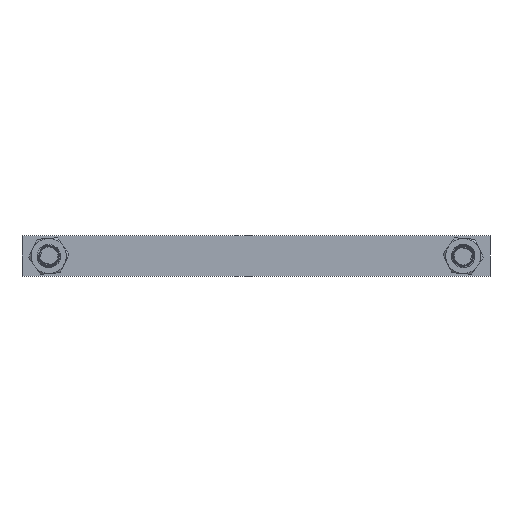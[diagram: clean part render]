
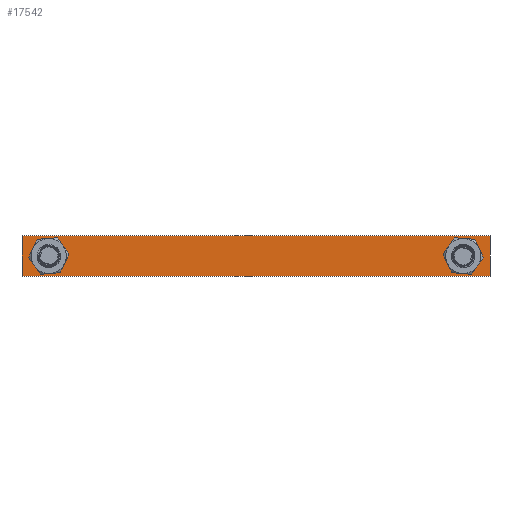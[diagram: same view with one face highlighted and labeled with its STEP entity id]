
A CAD part, front view. The second image highlights one B-rep face of the part: STEP entity #17542.
In plain terms, the highlighted planar face has unit normal (0, -1, 0).
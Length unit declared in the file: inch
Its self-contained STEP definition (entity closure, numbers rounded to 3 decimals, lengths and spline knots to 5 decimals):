
#264 = ORIENTED_EDGE ( 'NONE', *, *, #9180, .T. ) ;
#321 = CIRCLE ( 'NONE', #8082, 0.5 ) ;
#489 = FACE_BOUND ( 'NONE', #8666, .T. ) ;
#581 = DIRECTION ( 'NONE',  ( 0., -1., 0. ) ) ;
#923 = CARTESIAN_POINT ( 'NONE',  ( 0., 0.05, 0. ) ) ;
#971 = AXIS2_PLACEMENT_3D ( 'NONE', #6423, #5029, #3654 ) ;
#1768 = EDGE_CURVE ( 'Edge10', #17876, #14242, #6843, .T. ) ;
#2429 = ORIENTED_EDGE ( 'NONE', *, *, #9243, .T. ) ;
#2511 = CIRCLE ( 'NONE', #16772, 0.5 ) ;
#2809 = CARTESIAN_POINT ( 'NONE',  ( 16.5, 0.05, 0. ) ) ;
#3196 = CARTESIAN_POINT ( 'NONE',  ( 16.5, 0.05, -0.5 ) ) ;
#3387 = DIRECTION ( 'NONE',  ( 0., 0., -1. ) ) ;
#3514 = DIRECTION ( 'NONE',  ( 0., 0., -1. ) ) ;
#3654 = DIRECTION ( 'NONE',  ( 0., 0., 1. ) ) ;
#4959 = PLANE ( 'NONE',  #9668 ) ;
#5029 = DIRECTION ( 'NONE',  ( 0., 1., 0. ) ) ;
#5141 = AXIS2_PLACEMENT_3D ( 'NONE', #2809, #7068, #15915 ) ;
#5467 = VERTEX_POINT ( 'NONE', #3196 ) ;
#5666 = ORIENTED_EDGE ( 'NONE', *, *, #14813, .T. ) ;
#6061 = FACE_OUTER_BOUND ( 'NONE', #6594, .T. ) ;
#6423 = CARTESIAN_POINT ( 'NONE',  ( 16.5, 0.05, 0. ) ) ;
#6594 = EDGE_LOOP ( 'NONE', ( #2429, #16888, #16376, #8262 ) ) ;
#6619 = CIRCLE ( 'NONE', #971, 0.5 ) ;
#6634 = VECTOR ( 'NONE', #13934, 39.37008 ) ;
#6843 = LINE ( 'NONE', #11046, #6634 ) ;
#7068 = DIRECTION ( 'NONE',  ( 0., 1., 0. ) ) ;
#7879 = DIRECTION ( 'NONE',  ( 1., 0., 0. ) ) ;
#7911 = VERTEX_POINT ( 'NONE', #8202 ) ;
#8005 = CARTESIAN_POINT ( 'NONE',  ( 1., 0.05, 0. ) ) ;
#8082 = AXIS2_PLACEMENT_3D ( 'NONE', #11788, #15981, #3514 ) ;
#8202 = CARTESIAN_POINT ( 'NONE',  ( 1., 0.05, 0.5 ) ) ;
#8262 = ORIENTED_EDGE ( 'NONE', *, *, #1768, .F. ) ;
#8348 = ORIENTED_EDGE ( 'NONE', *, *, #18380, .T. ) ;
#8578 = EDGE_CURVE ( 'Edge7', #5467, #12927, #11106, .T. ) ;
#8666 = EDGE_LOOP ( 'NONE', ( #17035, #264 ) ) ;
#8909 = CARTESIAN_POINT ( 'NONE',  ( 17.5, 0.05, 0.74833 ) ) ;
#9020 = EDGE_CURVE ( 'Edge6', #10779, #14440, #13689, .T. ) ;
#9062 = FACE_BOUND ( 'NONE', #9776, .T. ) ;
#9180 = EDGE_CURVE ( 'Edge7', #12927, #5467, #6619, .T. ) ;
#9243 = EDGE_CURVE ( 'NONE', #17876, #10779, #13191, .T. ) ;
#9668 = AXIS2_PLACEMENT_3D ( 'NONE', #16041, #581, #3387 ) ;
#9776 = EDGE_LOOP ( 'NONE', ( #5666, #8348 ) ) ;
#9898 = VECTOR ( 'NONE', #12206, 39.37008 ) ;
#10779 = VERTEX_POINT ( 'NONE', #11100 ) ;
#11046 = CARTESIAN_POINT ( 'NONE',  ( 17.5, 0.05, 0.875 ) ) ;
#11100 = CARTESIAN_POINT ( 'NONE',  ( 0., 0.05, 0.74833 ) ) ;
#11106 = CIRCLE ( 'NONE', #5141, 0.5 ) ;
#11788 = CARTESIAN_POINT ( 'NONE',  ( 1., 0.05, 0. ) ) ;
#11881 = DIRECTION ( 'NONE',  ( -1., 0., 0. ) ) ;
#12090 = VERTEX_POINT ( 'NONE', #17237 ) ;
#12206 = DIRECTION ( 'NONE',  ( 0., 0., -1. ) ) ;
#12296 = DIRECTION ( 'NONE',  ( 0., 1., 0. ) ) ;
#12927 = VERTEX_POINT ( 'NONE', #17357 ) ;
#13191 = LINE ( 'NONE', #8909, #16142 ) ;
#13492 = CARTESIAN_POINT ( 'NONE',  ( 17.5, 0.05, -0.74833 ) ) ;
#13689 = LINE ( 'NONE', #923, #9898 ) ;
#13934 = DIRECTION ( 'NONE',  ( 0., 0., -1. ) ) ;
#14033 = DIRECTION ( 'NONE',  ( 0., 0., -1. ) ) ;
#14242 = VERTEX_POINT ( 'NONE', #13492 ) ;
#14440 = VERTEX_POINT ( 'NONE', #15262 ) ;
#14813 = EDGE_CURVE ( 'Edge12', #12090, #7911, #321, .T. ) ;
#15025 = EDGE_CURVE ( 'Edge13', #14440, #14242, #16638, .T. ) ;
#15231 = VECTOR ( 'NONE', #7879, 39.37008 ) ;
#15262 = CARTESIAN_POINT ( 'NONE',  ( 0., 0.05, -0.74833 ) ) ;
#15335 = CARTESIAN_POINT ( 'NONE',  ( 17.5, 0.05, -0.74833 ) ) ;
#15915 = DIRECTION ( 'NONE',  ( 0., 0., 1. ) ) ;
#15981 = DIRECTION ( 'NONE',  ( 0., 1., 0. ) ) ;
#16041 = CARTESIAN_POINT ( 'NONE',  ( 0., 0.05, 0. ) ) ;
#16142 = VECTOR ( 'NONE', #11881, 39.37008 ) ;
#16376 = ORIENTED_EDGE ( 'NONE', *, *, #15025, .T. ) ;
#16638 = LINE ( 'NONE', #15335, #15231 ) ;
#16772 = AXIS2_PLACEMENT_3D ( 'NONE', #8005, #12296, #14033 ) ;
#16888 = ORIENTED_EDGE ( 'NONE', *, *, #9020, .T. ) ;
#17035 = ORIENTED_EDGE ( 'NONE', *, *, #8578, .T. ) ;
#17152 = CARTESIAN_POINT ( 'NONE',  ( 17.5, 0.05, 0.74833 ) ) ;
#17237 = CARTESIAN_POINT ( 'NONE',  ( 1., 0.05, -0.5 ) ) ;
#17357 = CARTESIAN_POINT ( 'NONE',  ( 16.5, 0.05, 0.5 ) ) ;
#17542 = ADVANCED_FACE ( 'Face6', ( #489, #6061, #9062 ), #4959, .T. ) ;
#17876 = VERTEX_POINT ( 'NONE', #17152 ) ;
#18380 = EDGE_CURVE ( 'Edge12', #7911, #12090, #2511, .T. ) ;
